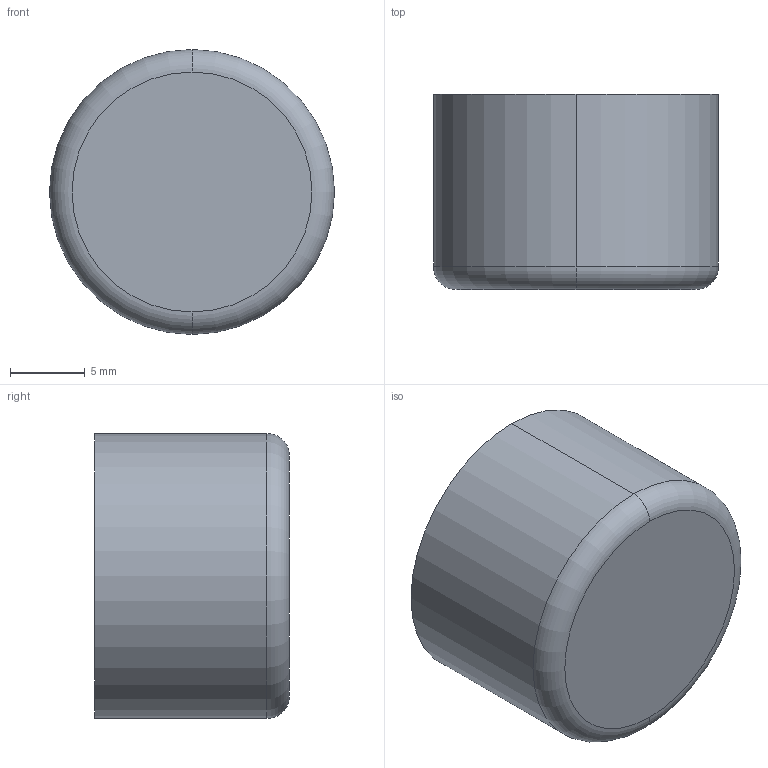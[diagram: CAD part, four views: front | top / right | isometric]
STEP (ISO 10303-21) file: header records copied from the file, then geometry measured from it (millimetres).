
FILE_DESCRIPTION (( 'STEP AP214' ), '1' );
FILE_NAME ('806-19-A.step', '2023-03-24T08:50:59', ( '' ), ( '' ), 'SwSTEP 2.0', 'SolidWorks 2022', '' );
FILE_SCHEMA (( 'AUTOMOTIVE_DESIGN' ));
Length unit declared in the file: millimetre
Products named in the file (1): 806-19-A
Bounding box: 19 x 13 x 19 mm (x, y, z)
Volume: 2496.1 mm3; surface area: 1795.3 mm2
Topology: 1 solids, 1 shells, 12 faces, 22 edges, 14 vertices
Faces by surface type: cylinder 6, plane 4, torus 2
Entity records: 340 total; most frequent: DIRECTION 64, CARTESIAN_POINT 49, ORIENTED_EDGE 44, AXIS2_PLACEMENT_3D 29, EDGE_CURVE 22, CIRCLE 16, VERTEX_POINT 14, EDGE_LOOP 14
